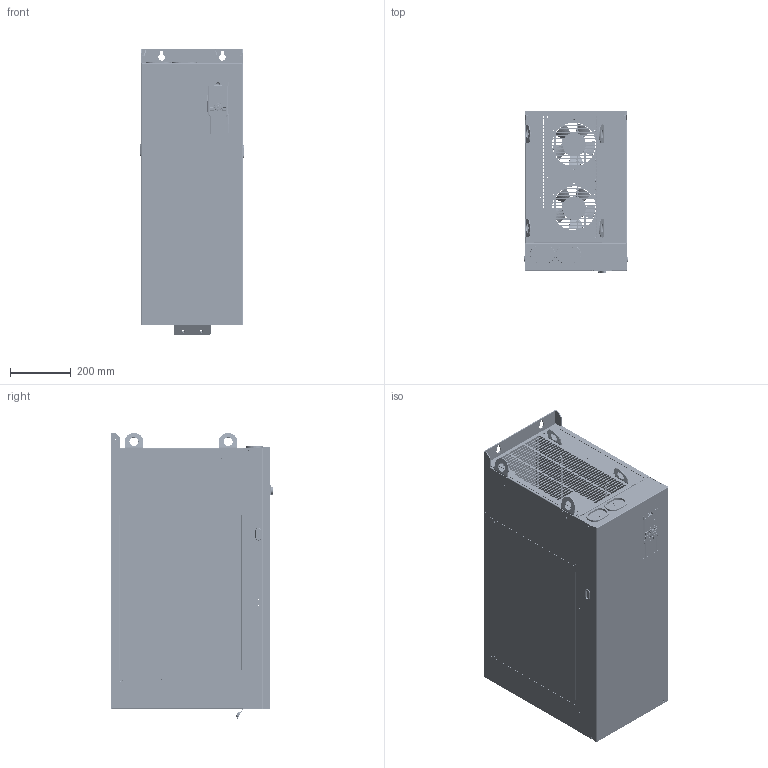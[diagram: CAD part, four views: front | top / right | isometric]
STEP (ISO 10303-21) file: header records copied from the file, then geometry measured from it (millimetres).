
FILE_DESCRIPTION((''),'2;1');
FILE_NAME('00-A8-200_ASM_212_ASM','2024-08-14T',('Administrator'),(''),'PRO/ENGINEER BY PARAMETRIC TECHNOLOGY CORPORATION, 2010280','PRO/ENGINEER BY PARAMETRIC TECHNOLOGY CORPORATION, 2010280','');
FILE_SCHEMA(('AUTOMOTIVE_DESIGN { 1 0 10303 214 1 1 1 1 }'));
Products named in the file (132): A8-200-01-01-01_135; NZ-M8-ZC_46; S-M4-ZC_50; A8-200-01-01-01_ASM_117_ASM; A8-200-01-01-03_161; SO-3R5M3-26-ZC_50; BSO-M3-10-ZC_50; BSO-3R5M3-5-ZC_50; SO-3R5M3-28-ZC_2; A8-200-01-01-03_ASM_136_ASM; A8-200-01-01-04_171; S-M6-ZC_50; A8-200-01-01-04_ASM_145_ASM; A8-200-01-01-05_55; A8-200-01-01-05_ASM_62_ASM; A8-200-01-01-06_51; A8-200-01-01-06_ASM_62_ASM; A8-200-01-01-08_47; A8-200-01-01-08_ASM_52_ASM; A8-200-01-01-09_52; A8-200-01-01-09_ASM_56_ASM; A8-200-01-01-10_51; A8-200-01-01-10_ASM_58_ASM; A8-200-01-01-11_51; A8-200-01-01-11_ASM_60_ASM; A8-200-01-01-12_45; A8-200-01-01-12_ASM_46_ASM; A8-200-01-01-13_41; A8-200-01-01-13_ASM_50_ASM; A8-200-01-01-14_11; A8-200-01-01-14_ASM_16_ASM; A8-200-01-01-15_10; A8-200-01-01-15_ASM_10_ASM; A8-200-01-01-16_10; A8-200-01-01-16_ASM_11_ASM; A8-280-01-01-13_2; A8-280-01-01-13_ASM_2_ASM; GB12617-90_4X8_30-R0_10_32; GB12617-90_4X6-22_3_2_3; A8-200-01-01_ASM_209_ASM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
Assembly tree (387 placements, depth 6):
  00-A8-200_ASM_212_ASM
    A8-200-01_ASM_181_ASM
      A8-200-01-01_ASM_209_ASM
        A8-200-01-01-01_ASM_117_ASM
          A8-200-01-01-01_135
          NZ-M8-ZC_46  x4
          S-M4-ZC_50  x3
        A8-200-01-01-03_ASM_136_ASM
          A8-200-01-01-03_161
          SO-3R5M3-26-ZC_50  x6
          BSO-M3-10-ZC_50  x7
          S-M4-ZC_50  x30
          NZ-M8-ZC_46  x4
          BSO-3R5M3-5-ZC_50  x2
          SO-3R5M3-28-ZC_2  x2
        A8-200-01-01-04_ASM_145_ASM
          A8-200-01-01-04_171
          S-M4-ZC_50  x7
          S-M6-ZC_50  x16
          BSO-M3-10-ZC_50  x4
        A8-200-01-01-05_ASM_62_ASM
          A8-200-01-01-05_55
        A8-200-01-01-06_ASM_62_ASM
          A8-200-01-01-06_51
          S-M4-ZC_50  x2
        A8-200-01-01-08_ASM_52_ASM
          A8-200-01-01-08_47
        A8-200-01-01-09_ASM_56_ASM
          A8-200-01-01-09_52
        A8-200-01-01-10_ASM_58_ASM
          A8-200-01-01-10_51
        A8-200-01-01-11_ASM_60_ASM
          A8-200-01-01-11_51
        A8-200-01-01-12_ASM_46_ASM
          A8-200-01-01-12_45
        A8-200-01-01-13_ASM_50_ASM  x7
          A8-200-01-01-13_41
          S-M4-ZC_50
        A8-200-01-01-14_ASM_16_ASM
          A8-200-01-01-14_11
          S-M4-ZC_50  x2
        A8-200-01-01-15_ASM_10_ASM
          A8-200-01-01-15_10
          S-M4-ZC_50  x3
        A8-200-01-01-16_ASM_11_ASM
          A8-200-01-01-16_10
          S-M4-ZC_50
        A8-280-01-01-13_ASM_2_ASM  x4
          A8-280-01-01-13_2
        GB12617-90_4X8_30-R0_10_32  x96
        GB12617-90_4X6-22_3_2_3  x20
      A8-200-01-02_ASM_55_ASM
        A8-200-01-02_48
        S-M4-ZC_50  x4
      A8-200-01-03_ASM_69_ASM
        A8-200-01-03-01_ASM_5_ASM
          A8-200-01-03_62
          TPS-4-8-ZC_48  x2
        A8-200-01-03-02_ASM_37_ASM  x2
          A8-200-01-03-02_34
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Bounding box: 342 x 536.3 x 943.64 mm (x, y, z)
Volume: 6560596.1 mm3; surface area: 6618568.2 mm2
Topology: 350 solids, 354 shells, 43886 faces, 130567 edges, 93169 vertices
Faces by surface type: plane 37658, cylinder 4066, cone 1575, torus 322, bspline 219, sphere 46
Entity records: 630296 total; most frequent: CARTESIAN_POINT 101402, DIRECTION 84387, ORIENTED_EDGE 75052, EDGE_CURVE 37530, VECTOR 33897, LINE 33897, PRESENTATION_STYLE_ASSIGNMENT 30665, STYLED_ITEM 30551
